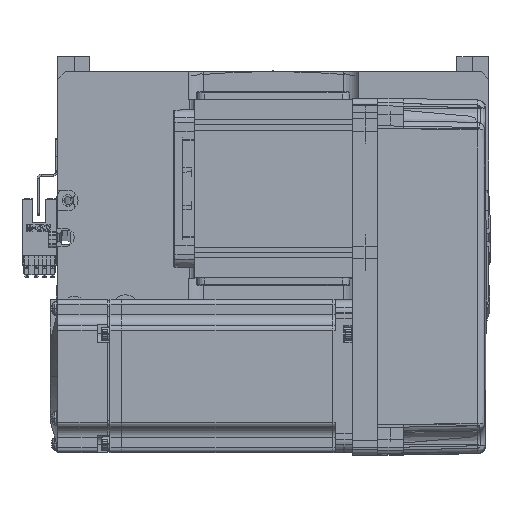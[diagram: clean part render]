
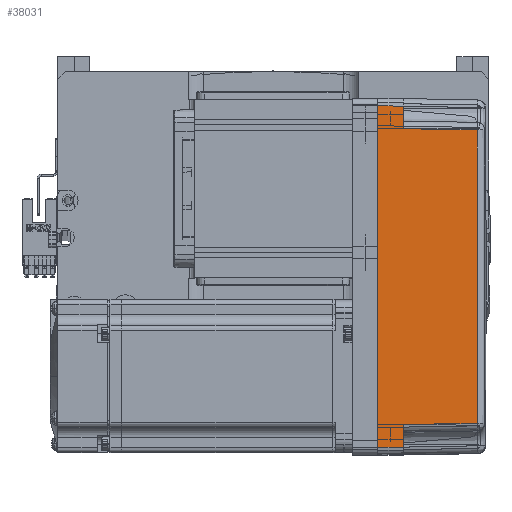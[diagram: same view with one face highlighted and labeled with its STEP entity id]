
A CAD part, top view. The second image highlights one B-rep face of the part: STEP entity #38031.
In plain terms, the highlighted planar face has unit normal (0.018, 0, 1) as drawn and (0, 1, 0.017) by its records, which use the part's own axes.
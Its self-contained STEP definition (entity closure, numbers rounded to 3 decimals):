
#703 = VECTOR ( 'NONE', #22762, 1000. ) ;
#1660 = LINE ( 'NONE', #24572, #6696 ) ;
#2278 = VECTOR ( 'NONE', #44801, 1000. ) ;
#3764 = CARTESIAN_POINT ( 'NONE',  ( 57.495, 35.32, 38.985 ) ) ;
#3833 = FACE_OUTER_BOUND ( 'NONE', #5674, .T. ) ;
#5406 = CARTESIAN_POINT ( 'NONE',  ( -58., 35.825, 10. ) ) ;
#5674 = EDGE_LOOP ( 'NONE', ( #54205, #50628, #34184, #15094, #52262, #25656, #8688, #12399 ) ) ;
#6621 = LINE ( 'NONE', #3764, #8297 ) ;
#6696 = VECTOR ( 'NONE', #9562, 1000. ) ;
#8029 = CARTESIAN_POINT ( 'NONE',  ( 66.826, 35.825, 10. ) ) ;
#8297 = VECTOR ( 'NONE', #14752, 1000. ) ;
#8408 = CARTESIAN_POINT ( 'NONE',  ( 57.495, 35.32, 38.985 ) ) ;
#8643 = CARTESIAN_POINT ( 'NONE',  ( -57.495, 35.32, 38.985 ) ) ;
#8688 = ORIENTED_EDGE ( 'NONE', *, *, #40154, .F. ) ;
#9562 = DIRECTION ( 'NONE',  ( 0.017, -0.017, 1. ) ) ;
#9807 = LINE ( 'NONE', #67828, #42913 ) ;
#12399 = ORIENTED_EDGE ( 'NONE', *, *, #45858, .F. ) ;
#14669 = CARTESIAN_POINT ( 'NONE',  ( -67., 36., 0. ) ) ;
#14752 = DIRECTION ( 'NONE',  ( 0.017, 0.017, -1. ) ) ;
#15094 = ORIENTED_EDGE ( 'NONE', *, *, #37208, .T. ) ;
#16149 = CARTESIAN_POINT ( 'NONE',  ( 70., 35.825, 10. ) ) ;
#16437 = VECTOR ( 'NONE', #50834, 1000. ) ;
#16507 = LINE ( 'NONE', #23098, #2278 ) ;
#17539 = B_SPLINE_CURVE_WITH_KNOTS ( 'NONE', 3,
 ( #8643, #50219, #34987, #8408 ),
 .UNSPECIFIED., .F., .F.,
 ( 4, 4 ),
 ( 0., 1. ),
 .UNSPECIFIED. ) ;
#22013 = CARTESIAN_POINT ( 'NONE',  ( 58., 35.825, 10. ) ) ;
#22110 = DIRECTION ( 'NONE',  ( 0., 1., 0.017 ) ) ;
#22762 = DIRECTION ( 'NONE',  ( 1., 0., 0. ) ) ;
#23098 = CARTESIAN_POINT ( 'NONE',  ( 67.001, 36.001, -0.052 ) ) ;
#23936 = LINE ( 'NONE', #54365, #703 ) ;
#24572 = CARTESIAN_POINT ( 'NONE',  ( -58., 35.825, 10. ) ) ;
#25656 = ORIENTED_EDGE ( 'NONE', *, *, #27089, .T. ) ;
#27089 = EDGE_CURVE ( 'NONE', #37650, #34102, #9807, .T. ) ;
#27694 = CARTESIAN_POINT ( 'NONE',  ( 70., 36., 0. ) ) ;
#34102 = VERTEX_POINT ( 'NONE', #8029 ) ;
#34184 = ORIENTED_EDGE ( 'NONE', *, *, #64525, .T. ) ;
#34987 = CARTESIAN_POINT ( 'NONE',  ( 19.165, 35.316, 39.181 ) ) ;
#35500 = VECTOR ( 'NONE', #47942, 1000. ) ;
#36031 = EDGE_CURVE ( 'NONE', #39179, #37650, #6621, .T. ) ;
#37208 = EDGE_CURVE ( 'NONE', #62021, #39179, #17539, .T. ) ;
#37650 = VERTEX_POINT ( 'NONE', #22013 ) ;
#38031 = ADVANCED_FACE ( 'NONE', ( #3833 ), #38701, .T. ) ;
#38134 = EDGE_CURVE ( 'NONE', #64469, #60336, #44457, .T. ) ;
#38701 = PLANE ( 'NONE',  #40702 ) ;
#39036 = VERTEX_POINT ( 'NONE', #5406 ) ;
#39179 = VERTEX_POINT ( 'NONE', #55054 ) ;
#40154 = EDGE_CURVE ( 'NONE', #44291, #34102, #16507, .T. ) ;
#40702 = AXIS2_PLACEMENT_3D ( 'NONE', #27694, #22110, #59480 ) ;
#41524 = DIRECTION ( 'NONE',  ( 1., 0., 0. ) ) ;
#42913 = VECTOR ( 'NONE', #41524, 1000. ) ;
#43488 = CARTESIAN_POINT ( 'NONE',  ( -66.826, 35.825, 10. ) ) ;
#44291 = VERTEX_POINT ( 'NONE', #45597 ) ;
#44457 = LINE ( 'NONE', #60991, #16437 ) ;
#44801 = DIRECTION ( 'NONE',  ( -0.017, -0.017, 1. ) ) ;
#45597 = CARTESIAN_POINT ( 'NONE',  ( 67., 36., 0. ) ) ;
#45858 = EDGE_CURVE ( 'NONE', #64469, #44291, #23936, .T. ) ;
#47942 = DIRECTION ( 'NONE',  ( 1., 0., 0. ) ) ;
#47958 = CARTESIAN_POINT ( 'NONE',  ( -57.495, 35.32, 38.985 ) ) ;
#50219 = CARTESIAN_POINT ( 'NONE',  ( -19.165, 35.316, 39.181 ) ) ;
#50628 = ORIENTED_EDGE ( 'NONE', *, *, #56540, .T. ) ;
#50834 = DIRECTION ( 'NONE',  ( 0.017, -0.017, 1. ) ) ;
#52262 = ORIENTED_EDGE ( 'NONE', *, *, #36031, .T. ) ;
#54205 = ORIENTED_EDGE ( 'NONE', *, *, #38134, .T. ) ;
#54365 = CARTESIAN_POINT ( 'NONE',  ( 0., 36., 0. ) ) ;
#55054 = CARTESIAN_POINT ( 'NONE',  ( 57.495, 35.32, 38.985 ) ) ;
#56540 = EDGE_CURVE ( 'NONE', #60336, #39036, #67760, .T. ) ;
#59480 = DIRECTION ( 'NONE',  ( 0., -0.017, 1. ) ) ;
#60336 = VERTEX_POINT ( 'NONE', #43488 ) ;
#60991 = CARTESIAN_POINT ( 'NONE',  ( -67., 36., 0. ) ) ;
#62021 = VERTEX_POINT ( 'NONE', #47958 ) ;
#64469 = VERTEX_POINT ( 'NONE', #14669 ) ;
#64525 = EDGE_CURVE ( 'NONE', #39036, #62021, #1660, .T. ) ;
#67760 = LINE ( 'NONE', #16149, #35500 ) ;
#67828 = CARTESIAN_POINT ( 'NONE',  ( 70., 35.825, 10. ) ) ;
